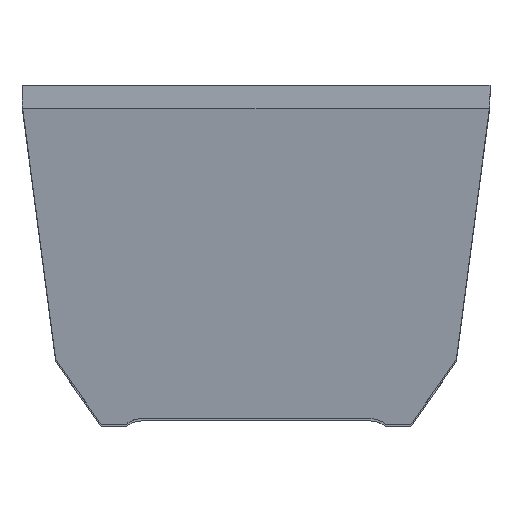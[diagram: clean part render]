
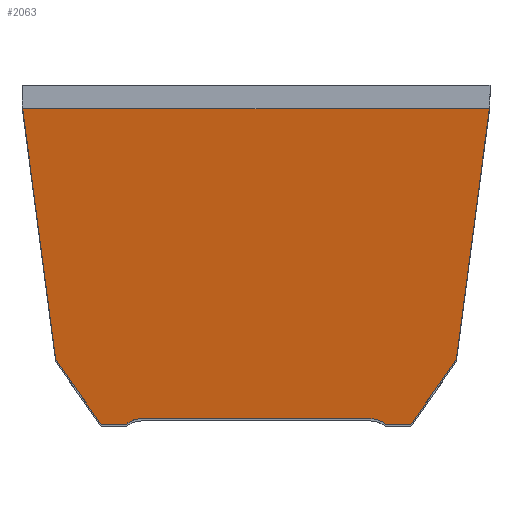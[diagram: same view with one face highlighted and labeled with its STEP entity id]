
A CAD part, top view. The second image highlights one B-rep face of the part: STEP entity #2063.
In plain terms, the highlighted planar face has unit normal (0, -0.147, 0.989).
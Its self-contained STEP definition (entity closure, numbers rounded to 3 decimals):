
#4 = EDGE_CURVE ( 'NONE', #1623, #1653, #1933, .T. ) ;
#8 = EDGE_CURVE ( 'NONE', #1594, #1623, #455, .T. ) ;
#11 = EDGE_CURVE ( 'NONE', #1555, #1550, #445, .T. ) ;
#15 = EDGE_CURVE ( 'NONE', #1555, #1594, #1927, .T. ) ;
#20 = EDGE_CURVE ( 'NONE', #1556, #1653, #436, .T. ) ;
#29 = EDGE_CURVE ( 'NONE', #1582, #1643, #1932, .T. ) ;
#162 = VECTOR ( 'NONE', #3703, 1000. ) ;
#163 = LINE ( 'NONE', #3702, #162 ) ;
#175 = VECTOR ( 'NONE', #1573, 1000. ) ;
#182 = VECTOR ( 'NONE', #3718, 1000. ) ;
#183 = LINE ( 'NONE', #1553, #175 ) ;
#189 = VECTOR ( 'NONE', #1563, 1000. ) ;
#190 = LINE ( 'NONE', #1564, #189 ) ;
#200 = LINE ( 'NONE', #3692, #182 ) ;
#366 = AXIS2_PLACEMENT_3D ( 'NONE', #3163, #3169, #3170 ) ;
#429 = VECTOR ( 'NONE', #1760, 1000. ) ;
#436 = LINE ( 'NONE', #1765, #429 ) ;
#445 = LINE ( 'NONE', #1789, #449 ) ;
#449 = VECTOR ( 'NONE', #1782, 1000. ) ;
#450 = VECTOR ( 'NONE', #1788, 1000. ) ;
#455 = LINE ( 'NONE', #1792, #450 ) ;
#708 = ORIENTED_EDGE ( 'NONE', *, *, #2464, .F. ) ;
#1122 = ORIENTED_EDGE ( 'NONE', *, *, #11, .T. ) ;
#1123 = ORIENTED_EDGE ( 'NONE', *, *, #1145, .F. ) ;
#1136 = ORIENTED_EDGE ( 'NONE', *, *, #1144, .F. ) ;
#1137 = ORIENTED_EDGE ( 'NONE', *, *, #1155, .F. ) ;
#1138 = ORIENTED_EDGE ( 'NONE', *, *, #29, .F. ) ;
#1141 = EDGE_CURVE ( 'NONE', #1839, #1832, #190, .T. ) ;
#1144 = EDGE_CURVE ( 'NONE', #1832, #1879, #1930, .T. ) ;
#1145 = EDGE_CURVE ( 'NONE', #1863, #1550, #200, .T. ) ;
#1149 = EDGE_CURVE ( 'NONE', #1556, #1839, #183, .T. ) ;
#1155 = EDGE_CURVE ( 'NONE', #1643, #1863, #163, .T. ) ;
#1548 = CARTESIAN_POINT ( 'NONE',  ( -45.11, 56.725, 135.75 ) ) ;
#1549 = CARTESIAN_POINT ( 'NONE',  ( -45.077, 56.383, 135.699 ) ) ;
#1550 = VERTEX_POINT ( 'NONE', #2711 ) ;
#1551 = CARTESIAN_POINT ( 'NONE',  ( -45.038, 56.041, 135.649 ) ) ;
#1553 = CARTESIAN_POINT ( 'NONE',  ( -38.099, 7.317, 128.428 ) ) ;
#1555 = VERTEX_POINT ( 'NONE', #2716 ) ;
#1556 = VERTEX_POINT ( 'NONE', #2717 ) ;
#1563 = DIRECTION ( 'NONE',  ( -0.129, 0.981, 0.145 ) ) ;
#1564 = CARTESIAN_POINT ( 'NONE',  ( -44.686, 53.369, 135.253 ) ) ;
#1569 = CARTESIAN_POINT ( 'NONE',  ( -44.993, 55.7, 135.598 ) ) ;
#1573 = DIRECTION ( 'NONE',  ( -0.569, 0.813, 0.121 ) ) ;
#1582 = VERTEX_POINT ( 'NONE', #2724 ) ;
#1594 = VERTEX_POINT ( 'NONE', #2729 ) ;
#1623 = VERTEX_POINT ( 'NONE', #2741 ) ;
#1643 = VERTEX_POINT ( 'NONE', #2752 ) ;
#1653 = VERTEX_POINT ( 'NONE', #2758 ) ;
#1723 = CARTESIAN_POINT ( 'NONE',  ( 44.993, 55.7, 135.598 ) ) ;
#1724 = CARTESIAN_POINT ( 'NONE',  ( 45.038, 56.041, 135.649 ) ) ;
#1725 = CARTESIAN_POINT ( 'NONE',  ( 45.077, 56.383, 135.699 ) ) ;
#1732 = CARTESIAN_POINT ( 'NONE',  ( 45.11, 56.725, 135.75 ) ) ;
#1760 = DIRECTION ( 'NONE',  ( 1., 0., 0. ) ) ;
#1765 = CARTESIAN_POINT ( 'NONE',  ( -385.084, -4.3, 126.706 ) ) ;
#1771 = CARTESIAN_POINT ( 'NONE',  ( 22., -3.21, 126.868 ) ) ;
#1772 = CARTESIAN_POINT ( 'NONE',  ( 23.144, -3.21, 126.868 ) ) ;
#1773 = CARTESIAN_POINT ( 'NONE',  ( 24.223, -3.587, 126.812 ) ) ;
#1776 = CARTESIAN_POINT ( 'NONE',  ( 25.117, -4.3, 126.706 ) ) ;
#1782 = DIRECTION ( 'NONE',  ( 1., 0., 0. ) ) ;
#1788 = DIRECTION ( 'NONE',  ( -1., 0., 0. ) ) ;
#1789 = CARTESIAN_POINT ( 'NONE',  ( -385.084, -4.3, 126.706 ) ) ;
#1792 = CARTESIAN_POINT ( 'NONE',  ( -22., -3.21, 126.868 ) ) ;
#1796 = CARTESIAN_POINT ( 'NONE',  ( -25.117, -4.3, 126.706 ) ) ;
#1797 = CARTESIAN_POINT ( 'NONE',  ( -24.223, -3.587, 126.812 ) ) ;
#1798 = CARTESIAN_POINT ( 'NONE',  ( -23.144, -3.21, 126.868 ) ) ;
#1801 = CARTESIAN_POINT ( 'NONE',  ( -22., -3.21, 126.868 ) ) ;
#1832 = VERTEX_POINT ( 'NONE', #2832 ) ;
#1839 = VERTEX_POINT ( 'NONE', #2839 ) ;
#1863 = VERTEX_POINT ( 'NONE', #2863 ) ;
#1879 = VERTEX_POINT ( 'NONE', #2879 ) ;
#1927 =( BOUNDED_CURVE ( )  B_SPLINE_CURVE ( 3, ( #1776, #1773, #1772, #1771 ),
 .UNSPECIFIED., .F., .T. ) 
 B_SPLINE_CURVE_WITH_KNOTS ( ( 4, 4 ),
 ( 5.61, 6.283 ),
 .UNSPECIFIED. ) 
 CURVE ( )  GEOMETRIC_REPRESENTATION_ITEM ( )  RATIONAL_B_SPLINE_CURVE ( ( 1., 0.963, 0.963, 1. ) ) 
 REPRESENTATION_ITEM ( '' )  );
#1930 =( BOUNDED_CURVE ( )  B_SPLINE_CURVE ( 3, ( #1569, #1551, #1549, #1548 ),
 .UNSPECIFIED., .F., .T. ) 
 B_SPLINE_CURVE_WITH_KNOTS ( ( 4, 4 ),
 ( 4.581, 4.616 ),
 .UNSPECIFIED. ) 
 CURVE ( )  GEOMETRIC_REPRESENTATION_ITEM ( )  RATIONAL_B_SPLINE_CURVE ( ( 1., 1., 1., 1. ) ) 
 REPRESENTATION_ITEM ( '' )  );
#1932 =( BOUNDED_CURVE ( )  B_SPLINE_CURVE ( 3, ( #1732, #1725, #1724, #1723 ),
 .UNSPECIFIED., .F., .T. ) 
 B_SPLINE_CURVE_WITH_KNOTS ( ( 4, 4 ),
 ( 1.667, 1.702 ),
 .UNSPECIFIED. ) 
 CURVE ( )  GEOMETRIC_REPRESENTATION_ITEM ( )  RATIONAL_B_SPLINE_CURVE ( ( 1., 1., 1., 1. ) ) 
 REPRESENTATION_ITEM ( '' )  );
#1933 =( BOUNDED_CURVE ( )  B_SPLINE_CURVE ( 3, ( #1801, #1798, #1797, #1796 ),
 .UNSPECIFIED., .F., .F. ) 
 B_SPLINE_CURVE_WITH_KNOTS ( ( 4, 4 ),
 ( 0., 0.673 ),
 .UNSPECIFIED. ) 
 CURVE ( )  GEOMETRIC_REPRESENTATION_ITEM ( )  RATIONAL_B_SPLINE_CURVE ( ( 1., 0.963, 0.963, 1. ) ) 
 REPRESENTATION_ITEM ( '' )  );
#2063 = ADVANCED_FACE ( 'NONE', ( #2236 ), #3160, .F. ) ;
#2236 = FACE_OUTER_BOUND ( 'NONE', #3467, .T. ) ;
#2300 = LINE ( 'NONE', #3351, #2301 ) ;
#2301 = VECTOR ( 'NONE', #3352, 1000. ) ;
#2464 = EDGE_CURVE ( 'NONE', #1879, #1582, #2300, .T. ) ;
#2711 = CARTESIAN_POINT ( 'NONE',  ( 29.972, -4.3, 126.706 ) ) ;
#2716 = CARTESIAN_POINT ( 'NONE',  ( 25.117, -4.3, 126.706 ) ) ;
#2717 = CARTESIAN_POINT ( 'NONE',  ( -29.972, -4.3, 126.706 ) ) ;
#2724 = CARTESIAN_POINT ( 'NONE',  ( 45.11, 56.725, 135.75 ) ) ;
#2729 = CARTESIAN_POINT ( 'NONE',  ( 22., -3.21, 126.868 ) ) ;
#2741 = CARTESIAN_POINT ( 'NONE',  ( -22., -3.21, 126.868 ) ) ;
#2752 = CARTESIAN_POINT ( 'NONE',  ( 44.993, 55.7, 135.598 ) ) ;
#2758 = CARTESIAN_POINT ( 'NONE',  ( -25.117, -4.3, 126.706 ) ) ;
#2832 = CARTESIAN_POINT ( 'NONE',  ( -44.993, 55.7, 135.598 ) ) ;
#2839 = CARTESIAN_POINT ( 'NONE',  ( -38.738, 8.23, 128.563 ) ) ;
#2863 = CARTESIAN_POINT ( 'NONE',  ( 38.738, 8.23, 128.563 ) ) ;
#2879 = CARTESIAN_POINT ( 'NONE',  ( -45.11, 56.725, 135.75 ) ) ;
#3160 = PLANE ( 'NONE',  #366 ) ;
#3163 = CARTESIAN_POINT ( 'NONE',  ( -385.084, 56.725, 135.75 ) ) ;
#3169 = DIRECTION ( 'NONE',  ( 0., 0.147, -0.989 ) ) ;
#3170 = DIRECTION ( 'NONE',  ( 0., -0.989, -0.147 ) ) ;
#3351 = CARTESIAN_POINT ( 'NONE',  ( -15.25, 56.725, 135.75 ) ) ;
#3352 = DIRECTION ( 'NONE',  ( 1., 0., 0. ) ) ;
#3388 = ORIENTED_EDGE ( 'NONE', *, *, #20, .T. ) ;
#3389 = ORIENTED_EDGE ( 'NONE', *, *, #1149, .F. ) ;
#3390 = ORIENTED_EDGE ( 'NONE', *, *, #1141, .F. ) ;
#3402 = ORIENTED_EDGE ( 'NONE', *, *, #4, .F. ) ;
#3446 = ORIENTED_EDGE ( 'NONE', *, *, #8, .F. ) ;
#3453 = ORIENTED_EDGE ( 'NONE', *, *, #15, .F. ) ;
#3467 = EDGE_LOOP ( 'NONE', ( #3390, #3389, #3388, #3402, #3446, #3453, #1122, #1123, #1137, #1138, #708, #1136 ) ) ;
#3692 = CARTESIAN_POINT ( 'NONE',  ( 38.099, 7.317, 128.428 ) ) ;
#3702 = CARTESIAN_POINT ( 'NONE',  ( 44.686, 53.369, 135.253 ) ) ;
#3703 = DIRECTION ( 'NONE',  ( -0.129, -0.981, -0.145 ) ) ;
#3718 = DIRECTION ( 'NONE',  ( -0.569, -0.813, -0.121 ) ) ;
